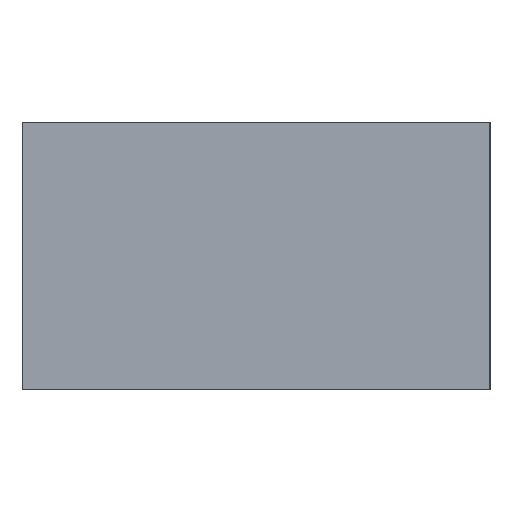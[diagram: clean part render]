
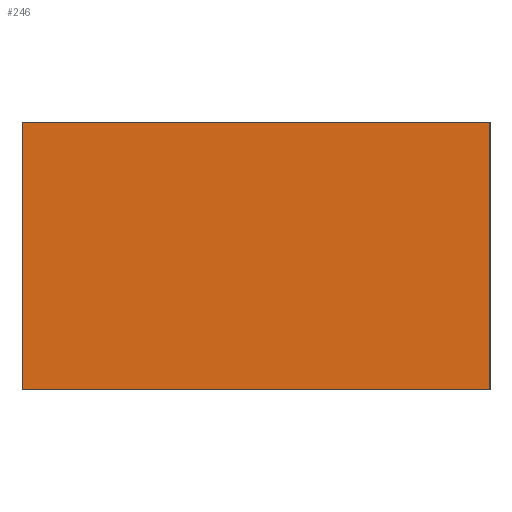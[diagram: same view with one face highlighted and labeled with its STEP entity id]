
A CAD part, top view. The second image highlights one B-rep face of the part: STEP entity #246.
In plain terms, the highlighted planar face has unit normal (0, 0, 1).
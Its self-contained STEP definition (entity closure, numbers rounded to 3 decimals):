
#3 = VECTOR ( 'NONE', #825, 1000. ) ;
#4 = DIRECTION ( 'NONE',  ( 1., 0., 0. ) ) ;
#117 = FACE_OUTER_BOUND ( 'NONE', #1124, .T. ) ;
#136 = VECTOR ( 'NONE', #994, 1000. ) ;
#173 = LINE ( 'NONE', #445, #136 ) ;
#184 = CARTESIAN_POINT ( 'NONE',  ( 699.5, -399.5, 4. ) ) ;
#204 = PLANE ( 'NONE',  #1367 ) ;
#246 = ADVANCED_FACE ( 'NONE', ( #117 ), #204, .F. ) ;
#272 = CARTESIAN_POINT ( 'NONE',  ( -699.5, -399.5, 4. ) ) ;
#336 = ORIENTED_EDGE ( 'NONE', *, *, #1106, .T. ) ;
#356 = CARTESIAN_POINT ( 'NONE',  ( -699.5, 399.5, 4. ) ) ;
#418 = CARTESIAN_POINT ( 'NONE',  ( 0., 0., 4. ) ) ;
#445 = CARTESIAN_POINT ( 'NONE',  ( 699.5, 0., 4. ) ) ;
#501 = ORIENTED_EDGE ( 'NONE', *, *, #1308, .T. ) ;
#523 = DIRECTION ( 'NONE',  ( 0., 0., -1. ) ) ;
#591 = CARTESIAN_POINT ( 'NONE',  ( 0., -399.5, 4. ) ) ;
#593 = VECTOR ( 'NONE', #1263, 1000. ) ;
#633 = DIRECTION ( 'NONE',  ( -1., 0., 0. ) ) ;
#688 = CARTESIAN_POINT ( 'NONE',  ( -699.5, 0., 4. ) ) ;
#825 = DIRECTION ( 'NONE',  ( 0., -1., 0. ) ) ;
#835 = VERTEX_POINT ( 'NONE', #184 ) ;
#994 = DIRECTION ( 'NONE',  ( 0., 1., 0. ) ) ;
#995 = EDGE_CURVE ( 'NONE', #835, #1468, #173, .T. ) ;
#1103 = ORIENTED_EDGE ( 'NONE', *, *, #995, .T. ) ;
#1105 = VERTEX_POINT ( 'NONE', #272 ) ;
#1106 = EDGE_CURVE ( 'NONE', #1397, #1105, #1246, .T. ) ;
#1124 = EDGE_LOOP ( 'NONE', ( #1103, #501, #336, #1255 ) ) ;
#1171 = LINE ( 'NONE', #591, #1443 ) ;
#1246 = LINE ( 'NONE', #688, #3 ) ;
#1255 = ORIENTED_EDGE ( 'NONE', *, *, #1331, .T. ) ;
#1263 = DIRECTION ( 'NONE',  ( -1., 0., 0. ) ) ;
#1308 = EDGE_CURVE ( 'NONE', #1468, #1397, #1377, .T. ) ;
#1331 = EDGE_CURVE ( 'NONE', #1105, #835, #1171, .T. ) ;
#1367 = AXIS2_PLACEMENT_3D ( 'NONE', #418, #523, #633 ) ;
#1377 = LINE ( 'NONE', #1383, #593 ) ;
#1383 = CARTESIAN_POINT ( 'NONE',  ( 0., 399.5, 4. ) ) ;
#1397 = VERTEX_POINT ( 'NONE', #356 ) ;
#1402 = CARTESIAN_POINT ( 'NONE',  ( 699.5, 399.5, 4. ) ) ;
#1443 = VECTOR ( 'NONE', #4, 1000. ) ;
#1468 = VERTEX_POINT ( 'NONE', #1402 ) ;
